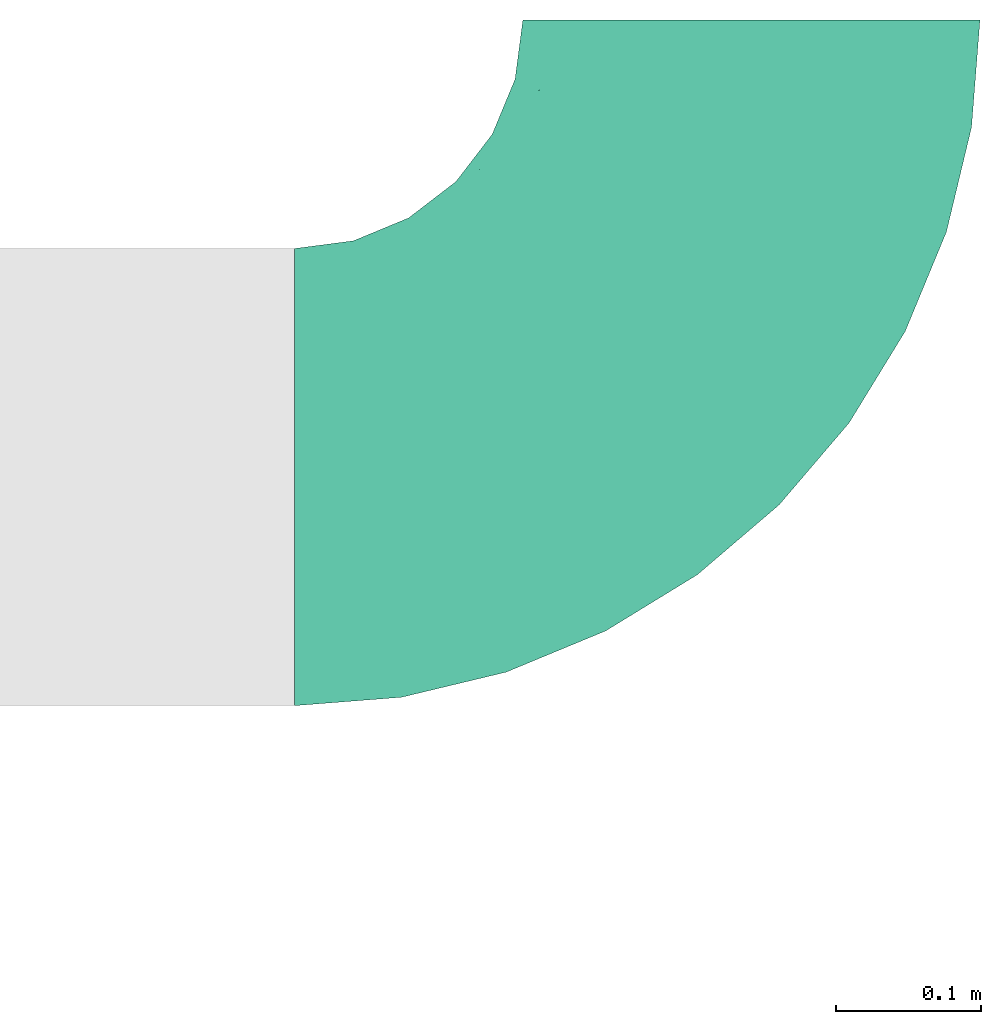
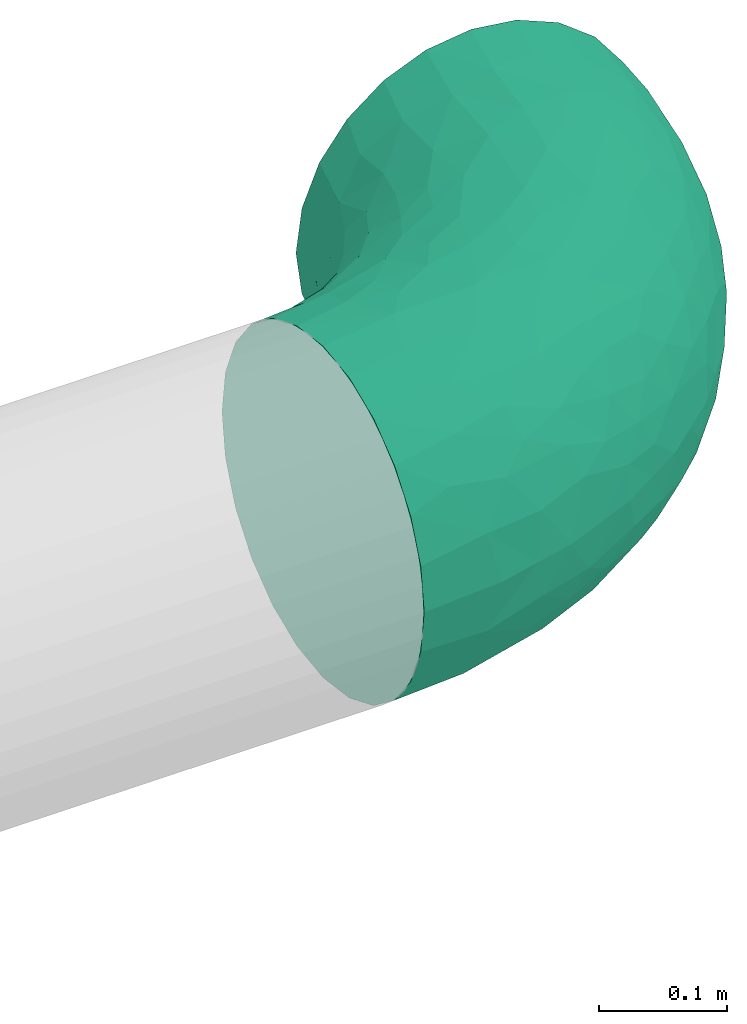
# One storey, part 11 of 12: 1 flow fitting.
"""IFC2X3 building model written with IfcOpenShell, lengths in millimetres."""

from ifc_helpers import new_model, entity, si_unit, converted_unit, derived_unit, direction, frame, origin_with_axes, place, context, subcontext, project, spatial, open_shell, surface_model, source, transform, mapped, type_object, element, save


model = new_model("IFC2X3")

# Units and contexts
model_context = context("Model", 3, precision=0.01, world=frame((0.0, 4.29681676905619e-09, 0.0)), true_north=direction((4.01073788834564e-13, 1.0)))
plan_context = context("Plan", 3, precision=0.01, world=frame((0.0, 4.29681676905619e-09, 0.0)), true_north=direction((4.01073788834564e-13, 1.0)))
body_context = subcontext(model_context, "Body", "Model", "MODEL_VIEW")
ifc_project = project(units=[converted_unit("PLANEANGLEUNIT", "DEGREE", entity("IfcPositiveLengthMeasure", 0.0174532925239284), si_unit("PLANEANGLEUNIT", "RADIAN"), dimensions=[0, 0, 0, 0, 0, 0, 0]), si_unit("AREAUNIT", "SQUARE_METRE"), si_unit("LENGTHUNIT", "METRE", prefix="MILLI"), si_unit("MASSUNIT", "GRAM", prefix="KILO"), si_unit("POWERUNIT", "WATT"), si_unit("PRESSUREUNIT", "PASCAL", prefix="KILO"), si_unit("FORCEUNIT", "NEWTON", prefix="KILO"), si_unit("ELECTRICVOLTAGEUNIT", "VOLT"), si_unit("ELECTRICCURRENTUNIT", "AMPERE"), si_unit("THERMODYNAMICTEMPERATUREUNIT", "DEGREE_CELSIUS"), si_unit("TIMEUNIT", "SECOND"), si_unit("VOLUMEUNIT", "CUBIC_METRE"), derived_unit("LINEARVELOCITYUNIT", [(si_unit("LENGTHUNIT", "METRE"), 1), (si_unit("TIMEUNIT", "SECOND"), -1)]), derived_unit("VOLUMETRICFLOWRATEUNIT", [(si_unit("VOLUMEUNIT", "CUBIC_METRE"), 1), (si_unit("TIMEUNIT", "SECOND"), -1)]), derived_unit("THERMALTRANSMITTANCEUNIT", [(si_unit("POWERUNIT", "WATT"), 1), (si_unit("THERMODYNAMICTEMPERATUREUNIT", "KELVIN"), -1), (si_unit("AREAUNIT", "SQUARE_METRE"), -1)]), derived_unit("SOUNDPRESSUREUNIT", [(si_unit("PRESSUREUNIT", "PASCAL"), 1)])], contexts=[model_context, plan_context])

# Site, building, storey
site_placement = place(None, frame((0.0, -4.29681676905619e-09, 0.0), z_axis=(0.0, 0.0, 1.0), x_axis=(1.0, 0.0, 0.0)))
site = spatial("IfcSite", under=ifc_project, at=site_placement, CompositionType="ELEMENT")
building_placement = place(site_placement, frame((0.0, 4.29681676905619e-09, 0.0), z_axis=(0.0, 0.0, 1.0), x_axis=(1.0, 0.0, 0.0)))
building = spatial("IfcBuilding", under=site, at=building_placement, Name="mc-building", CompositionType="ELEMENT")
storey_placement = place(building_placement, frame((0.0, 0.0, 204000.0), z_axis=(0.0, 0.0, 1.0), x_axis=(1.0, 0.0, 0.0)))
storey = spatial("IfcBuildingStorey", under=building, at=storey_placement, Name="Nivå D", CompositionType="ELEMENT", Elevation=204000.0)

# Flow fitting
duct_fitting_type = type_object("IfcDuctFittingType", Name="magicirc_elbow_full_radius_001", PredefinedType="BEND")
shared_shape = source(origin_with_axes(), body_context, "Body", "SurfaceModel", [
    surface_model("IfcShellBasedSurfaceModel", [(-315.0, 78.75, -136.39901), (-315.0, 40.764, -152.13332), (-315.0, 0.0, -157.5), (-315.0, 136.39901, -78.75), (-315.0, -40.764, -152.13332), (-315.0, 111.36932, -111.36932), (-315.0, -157.5, 0.0), (-315.0, -152.13332, 40.764), (-315.0, -111.36932, -111.36932), (-315.0, -152.13332, -40.764), (-315.0, -78.75, -136.39901), (-315.0, -136.39901, -78.75), (-315.0, 152.13332, -40.764), (-315.0, 152.13332, 40.764), (-315.0, 157.5, 0.0), (-315.0, 111.36932, 111.36932), (-315.0, 136.39901, 78.75), (-315.0, 78.75, 136.39901), (-315.0, 40.764, 152.13332), (-315.0, -111.36932, 111.36932), (-315.0, -78.75, 136.39901), (-315.0, -136.39901, 78.75), (-315.0, 0.0, 157.5), (-315.0, -40.764, 152.13332), (0.0, 315.0, -157.5), (-40.764, 315.0, -152.13332), (-78.75, 315.0, -136.39901), (-136.39901, 315.0, -78.75), (40.764, 315.0, -152.13332), (-111.36932, 315.0, -111.36932), (152.13332, 315.0, 40.764), (157.5, 315.0, 0.0), (78.75, 315.0, -136.39901), (152.13332, 315.0, -40.764), (111.36932, 315.0, -111.36932), (136.39901, 315.0, -78.75), (-152.13332, 315.0, -40.764), (-157.5, 315.0, 0.0), (-111.36932, 315.0, 111.36932), (-152.13332, 315.0, 40.764), (-136.39901, 315.0, 78.75), (-78.75, 315.0, 136.39901), (136.39901, 315.0, 78.75), (78.75, 315.0, 136.39901), (111.36932, 315.0, 111.36932), (0.0, 315.0, 157.5), (40.764, 315.0, 152.13332), (-40.764, 315.0, 152.13332), (-275.78673, -154.41385, 0.0), (-241.08472, -151.68274, 0.0), (-252.44974, -146.30358, 46.35165), (-187.41523, 212.23477, 44.18498), (-179.01149, 203.81739, 73.41005), (-160.11821, 234.12054, 71.62405), (-259.10789, -29.29167, 153.83069), (-244.91752, 10.986, 157.47118), (-224.67128, -127.46551, 78.41541), (-275.62484, -128.51884, 88.53098), (-239.58521, -68.78712, 137.8804), (-254.44946, -102.17277, 115.99392), (-204.97493, -89.72227, 117.91769), (-198.20454, -136.55993, 43.33884), (-148.94098, -119.38248, 47.89313), (-158.86886, -110.344, 75.73779), (39.78686, 15.52969, 50.216), (50.02524, 48.95167, 78.24133), (16.56876, 9.92294, 80.17525), (-156.73954, -92.78717, 99.09316), (-102.51279, -78.92253, 85.02595), (-126.30713, -72.38133, 106.65328), (-238.05749, 163.98734, 60.26168), (-237.20027, 147.2055, 88.84905), (-203.90523, 171.05831, 84.0913), (-99.39676, -101.96273, 31.06146), (-68.88048, -86.63056, 0.0), (-64.76022, -82.94549, 27.4714), (-194.76506, -28.32949, 149.7576), (24.59365, -9.6905, 28.83462), (43.18424, 9.08176, 0.0), (-28.15076, 147.0542, 156.53616), (-57.62232, 187.52251, 155.03024), (-72.61201, 106.84341, 157.43567), (-100.48949, -106.00058, 0.0), (-134.73948, -120.1874, 0.0), (-260.04347, 89.83524, 133.7152), (-237.26991, 125.02171, 112.97999), (-280.21215, 121.62894, 103.72153), (68.21928, 256.1901, 139.71452), (77.7719, 189.04071, 123.71299), (102.31809, 243.42041, 114.24978), (67.84442, 49.60938, 45.33346), (67.26053, 37.27147, 0.0), (90.55316, 77.99056, 29.40563), (-274.83669, 157.26153, 40.40661), (-274.67132, 145.30132, 71.02739), (-245.58363, 170.09727, 31.44943), (-158.01119, 282.57516, 29.57871), (-146.25125, 266.67126, 73.17914), (-201.21156, 99.95025, 140.23251), (-168.00076, 243.85557, 42.38557), (-236.25001, 178.601, 0.0), (-214.36106, 188.34463, 36.42869), (-203.63068, 203.63068, 0.0), (-162.86668, 274.236, 0.0), (-27.4795, -1.48331, 110.13927), (-51.96296, -33.03019, 100.52286), (-24.99652, -31.32094, 78.21218), (112.08788, 138.61937, 56.34637), (125.1619, 203.64453, 74.00759), (104.09929, 190.16434, 99.24634), (-263.88667, 52.46181, 150.1563), (6.28024, -18.02273, 54.59081), (-32.47692, -55.63747, 44.65165), (-205.03709, -143.02847, 0.0), (-151.50955, 215.6642, 97.49478), (-169.72394, 180.80582, 105.18325), (-137.80003, 192.65821, 121.95203), (-131.16131, 105.91152, 153.19188), (-137.52005, 135.51481, 144.53218), (-172.83727, 124.27225, 137.32768), (128.84491, 263.57392, 86.20478), (114.57644, 123.92915, 27.08781), (106.00058, 100.48949, 0.0), (131.75884, 176.48085, 38.42713), (143.02847, 205.03709, 0.0), (146.29642, 252.33829, 46.32598), (28.40156, 269.10441, 154.32704), (154.41385, 275.78673, 0.0), (-22.22564, 41.69116, 132.2609), (16.69324, 39.94323, 106.64404), (16.31975, 90.96952, 132.6244), (-52.03205, 254.37949, 150.89421), (153.88948, 315.0, 27.4246), (53.20704, 125.91085, 122.5592), (88.92651, 138.61761, 94.82216), (-274.236, 162.86668, 0.0), (-178.601, 236.25001, 0.0), (-168.81595, 14.50737, 156.32976), (-134.58592, -17.78306, 144.11351), (-96.06327, 24.61756, 149.79173), (-95.47965, 208.90923, 140.49399), (-78.67054, 72.23496, 155.69115), (-107.10628, 82.90122, 157.46314), (-89.91469, 266.26589, 132.78659), (-121.60296, 277.73788, 104.26598), (-11.78088, 260.70674, 157.34621), (-227.60537, 69.76326, 147.71238), (-195.7657, -66.84676, 132.57527), (-17.98791, 203.53807, 157.4841), (-60.53883, -60.45246, 74.88575), (-91.07399, -51.75682, 107.92189), (-197.57809, -110.08585, 94.49261), (-125.81015, 232.97235, 113.88738), (64.56465, 93.01368, 96.19249), (16.83328, 142.0015, 145.94195), (-22.72801, 90.93072, 148.21445), (-99.35511, 153.79, 150.7066), (57.69895, 213.45149, 140.44432), (29.76385, 212.9342, 151.06665), (41.25613, 174.00975, 141.99688), (81.24399, 84.86245, 65.51403), (-80.6457, -84.21175, 54.10058), (-119.42936, -101.75196, 60.63924), (-223.54613, 37.74243, 155.80439), (-168.22432, 88.17595, 150.9854), (-187.52253, 57.62232, 155.03024), (-196.7276, 148.24729, 112.17066), (-145.12836, 64.74974, 156.99994), (-62.1104, 49.45871, 148.77454), (-78.29466, 3.48913, 137.81789), (120.1874, 134.73948, 0.0), (134.3742, 168.98947, 0.0), (-124.07067, 168.52736, 138.84177), (0.02902, 171.95264, 154.42202), (-155.24181, 155.24181, 129.8968), (-73.90672, -22.7783, 121.68574), (-153.67663, -57.07317, 128.87412), (-113.78636, -39.32142, 127.49832), (-115.01886, 47.08507, 156.31037), (86.63056, 68.88048, 0.0), (-9.08176, -43.18424, 0.0), (19.10795, -19.10795, 0.0), (-168.98947, -134.3742, 0.0), (-37.27147, -67.26053, 0.0), (-315.0, -153.88948, 27.4246), (151.68274, 241.08472, 0.0), (-255.73532, 122.56558, -109.04479), (-214.29406, 93.80227, -140.10177), (-163.84149, 105.49727, -146.95596), (-183.82971, 59.98852, -154.94923), (-192.31906, 130.25635, -126.94074), (-214.67055, 186.05827, -42.62213), (-186.74496, 194.75879, -73.69482), (-239.00567, 164.73426, -57.54591), (84.53784, 80.13877, -52.6065), (-261.00954, 11.80363, -157.34285), (-250.44216, -29.83398, -153.37151), (-268.19836, 89.9699, -132.49512), (18.83806, 119.2151, -140.07242), (49.91254, 115.17721, -120.81771), (12.06978, 71.6341, -127.34592), (-248.07962, 169.80005, -27.2725), (-275.80747, 156.39383, -42.62213), (-196.40633, -137.77993, -37.15996), (-145.81166, -120.76195, -39.54807), (29.83399, 250.44214, -153.37151), (-188.19275, 214.15275, -37.45863), (-263.66616, 144.09279, -78.48806), (-189.95567, 165.06391, -102.28747), (43.89547, 65.88084, -99.75423), (78.16417, 108.21393, -90.03536), (-249.49402, 51.93128, -151.25871), (-315.0, -153.88948, -27.4246), (-247.57479, -102.2991, -114.91111), (-172.13573, -94.4716, -103.54526), (-203.64451, -125.1619, -74.00758), (-15.43872, -39.86246, -49.86848), (-49.56463, -70.60072, -36.85181), (-48.59952, -58.5205, -64.27403), (-252.33829, -146.29642, -46.32598), (-150.4225, 203.44707, -106.34238), (-263.57392, -128.84491, -86.20478), (-270.63117, -67.13499, -141.2369), (-215.39001, -68.32685, -135.04042), (102.2991, 247.57479, -114.91111), (-84.30908, -81.65653, -64.10818), (-91.06615, -97.14589, -32.77134), (94.4716, 172.13573, -103.54526), (68.32685, 215.39, -135.04042), (-163.2898, 237.20307, -62.64493), (-225.79476, 144.1207, -99.31867), (-157.79862, 273.70924, -39.50029), (-170.19986, 243.41794, -35.38905), (128.35851, 166.25059, -38.79853), (111.33052, 119.84284, -33.59532), (107.99483, 139.73378, -66.29524), (-159.64305, 170.07843, -119.54587), (-180.81821, -30.01596, -147.51371), (-145.25442, 275.15448, -70.89775), (-89.88491, 264.92544, -132.9879), (-44.17449, 280.59439, -151.79735), (9.31111, -25.05617, -28.4426), (53.009, 25.90805, -37.46377), (-11.80362, 261.00954, -157.34285), (67.13499, 270.63117, -141.2369), (-92.6263, 92.62629, -157.49916), (-118.96141, 121.25661, -152.49801), (-64.39537, 156.51032, -156.4116), (-60.182, 62.8574, -151.37938), (-107.20835, 12.13665, -148.56572), (-115.08393, 49.61455, -156.55155), (128.84491, 263.57392, -86.20478), (142.02096, 205.05236, -27.6146), (29.81946, 180.40381, -147.52592), (-13.4149, 195.22557, -157.2133), (146.29642, 252.33829, -46.32598), (-37.40914, -4.7821, -114.20577), (-6.41858, -12.60422, -81.0379), (-50.98723, -38.43118, -94.2951), (-120.93204, -103.51151, -58.28641), (-96.41026, 201.21637, -141.79045), (-123.09172, 250.65074, -110.13461), (-121.89335, 288.06679, -101.98259), (-63.35086, 202.24527, -152.53228), (-222.08454, -6.89853, -156.21984), (125.1619, 203.64451, -74.00758), (-51.91054, 246.85668, -151.45138), (-161.36987, -115.89647, -67.15691), (61.05333, 59.83208, -73.20753), (-114.28437, -21.13487, -137.6727), (-72.08976, 0.21966, -134.09767), (2.17272, 150.10188, -151.66391), (-117.40709, -78.70988, -95.14777), (15.79609, -8.49924, -54.72897), (67.75002, 163.86592, -124.46846), (-163.86592, -67.75002, -124.46846), (-128.02491, 185.93738, -130.75264), (-108.32235, 160.67293, -146.80015), (-59.757, 315.0, -144.26616), (-225.72616, 27.09586, -156.91411), (-54.59519, 105.68211, -156.33724), (-32.5663, 145.08674, -156.82141), (-145.37889, -8.42453, -149.28396), (-136.98265, 81.1657, -156.07826), (-156.31197, 39.80053, -157.47731), (-31.52679, 31.52678, -132.01846), (-143.53867, 148.20903, -138.06198), (-187.31767, 14.48755, -157.07868), (-19.17494, 108.97533, -150.78529), (2.87334, 23.19904, -105.99183), (32.99767, 23.1947, -73.77925), (-74.47057, -30.27504, -116.67674), (-115.17722, -49.91255, -120.81771), (153.88948, 315.0, -27.4246)], [open_shell([[[0, 1, 2]], [[3, 0, 2]], [[4, 3, 2]], [[5, 0, 3]], [[3, 6, 7]], [[8, 9, 10]], [[4, 10, 6]], [[11, 9, 8]], [[6, 10, 9]], [[6, 3, 4]], [[7, 12, 3]], [[13, 14, 15]], [[16, 13, 15]], [[17, 15, 7]], [[7, 15, 14]], [[17, 7, 18]], [[19, 20, 21]], [[7, 21, 22]], [[23, 22, 20]], [[21, 20, 22]], [[22, 18, 7]], [[12, 7, 14]], [[24, 25, 26]], [[24, 26, 27]], [[24, 27, 28]], [[27, 26, 29]], [[30, 31, 27]], [[32, 33, 34]], [[31, 32, 28]], [[34, 33, 35]], [[33, 32, 31]], [[28, 27, 31]], [[27, 36, 37]], [[38, 39, 40]], [[30, 38, 41]], [[42, 43, 44]], [[45, 42, 30]], [[43, 45, 46]], [[45, 43, 42]], [[30, 47, 45]], [[48, 49, 50]], [[51, 52, 53]], [[22, 54, 55]], [[56, 57, 50]], [[58, 59, 60]], [[23, 20, 58]], [[61, 62, 63]], [[64, 65, 66]], [[67, 68, 69]], [[70, 71, 72]], [[20, 59, 58]], [[73, 74, 75]], [[76, 54, 58]], [[64, 77, 78]], [[79, 80, 81]], [[50, 61, 56]], [[82, 73, 83]], [[84, 85, 86]], [[87, 88, 89]], [[22, 55, 18]], [[90, 91, 92]], [[93, 94, 70]], [[70, 95, 93]], [[96, 97, 39]], [[85, 84, 98]], [[99, 51, 53]], [[71, 70, 94]], [[100, 101, 102]], [[96, 103, 99]], [[14, 13, 93]], [[94, 93, 13]], [[64, 90, 65]], [[104, 105, 106]], [[107, 108, 109]], [[17, 110, 84]], [[111, 106, 112]], [[113, 50, 49]], [[20, 19, 59]], [[114, 115, 116]], [[117, 118, 119]], [[89, 43, 87]], [[19, 21, 57]], [[120, 89, 108]], [[121, 92, 122]], [[123, 124, 125]], [[45, 126, 46]], [[125, 127, 30]], [[16, 15, 86]], [[128, 129, 130]], [[120, 42, 44]], [[42, 125, 30]], [[123, 108, 107]], [[47, 41, 131]], [[127, 31, 132]], [[133, 134, 88]], [[93, 95, 135]], [[21, 7, 50]], [[99, 103, 136]], [[137, 138, 139]], [[102, 101, 51]], [[103, 96, 37]], [[140, 80, 131]], [[72, 101, 70]], [[51, 136, 102]], [[141, 81, 142]], [[131, 143, 140]], [[39, 97, 40]], [[38, 40, 144]], [[89, 44, 43]], [[145, 47, 131]], [[16, 94, 13]], [[41, 143, 131]], [[145, 45, 47]], [[15, 17, 84]], [[137, 55, 76]], [[23, 54, 22]], [[146, 84, 110]], [[58, 60, 147]], [[43, 46, 87]], [[88, 134, 109]], [[41, 38, 143]], [[80, 79, 148]], [[149, 150, 68]], [[67, 151, 63]], [[17, 18, 110]], [[84, 146, 98]], [[120, 125, 42]], [[125, 108, 123]], [[50, 7, 48]], [[50, 113, 61]], [[53, 52, 114]], [[144, 97, 152]], [[153, 129, 65]], [[111, 64, 66]], [[57, 59, 19]], [[60, 151, 67]], [[130, 133, 154]], [[129, 128, 104]], [[155, 154, 79]], [[156, 81, 80]], [[126, 87, 46]], [[157, 158, 159]], [[157, 88, 87]], [[160, 153, 65]], [[58, 54, 23]], [[55, 54, 76]], [[161, 162, 73]], [[162, 67, 63]], [[144, 143, 38]], [[143, 152, 140]], [[148, 131, 80]], [[126, 145, 158]], [[18, 55, 110]], [[163, 110, 55]], [[164, 98, 165]], [[98, 119, 166]], [[167, 117, 164]], [[140, 156, 80]], [[138, 137, 76]], [[168, 169, 128]], [[107, 134, 160]], [[89, 109, 108]], [[121, 123, 107]], [[170, 171, 123]], [[89, 120, 44]], [[125, 120, 108]], [[86, 94, 16]], [[94, 86, 71]], [[145, 126, 45]], [[126, 158, 157]], [[116, 140, 152]], [[118, 156, 172]], [[140, 116, 172]], [[81, 156, 117]], [[117, 167, 142]], [[81, 155, 79]], [[155, 130, 154]], [[148, 158, 145]], [[159, 88, 157]], [[173, 158, 148]], [[148, 79, 173]], [[131, 148, 145]], [[95, 70, 101]], [[14, 93, 135]], [[101, 100, 95]], [[135, 95, 100]], [[97, 144, 40]], [[143, 144, 152]], [[166, 71, 85]], [[71, 166, 72]], [[98, 166, 85]], [[166, 115, 72]], [[115, 166, 174]], [[101, 72, 52]], [[116, 115, 174]], [[52, 72, 115]], [[116, 174, 172]], [[114, 116, 152]], [[97, 114, 152]], [[52, 115, 114]], [[118, 172, 174]], [[140, 172, 156]], [[119, 118, 174]], [[156, 118, 117]], [[166, 119, 174]], [[119, 98, 164]], [[128, 130, 155]], [[153, 130, 129]], [[168, 128, 155]], [[104, 106, 66]], [[128, 169, 104]], [[162, 68, 67]], [[175, 150, 105]], [[176, 138, 76]], [[141, 155, 81]], [[139, 169, 168]], [[176, 69, 177]], [[147, 76, 58]], [[177, 150, 175]], [[138, 169, 139]], [[167, 137, 178]], [[137, 165, 163]], [[121, 122, 170]], [[126, 157, 87]], [[92, 121, 107]], [[123, 121, 170]], [[92, 107, 160]], [[90, 92, 160]], [[92, 91, 179]], [[65, 90, 160]], [[114, 97, 53]], [[160, 134, 153]], [[66, 65, 129]], [[134, 133, 153]], [[153, 133, 130]], [[104, 66, 129]], [[111, 66, 106]], [[149, 112, 106]], [[77, 64, 111]], [[161, 73, 75]], [[180, 181, 77]], [[77, 111, 112]], [[91, 90, 78]], [[77, 181, 78]], [[90, 64, 78]], [[97, 99, 53]], [[84, 86, 15]], [[86, 85, 71]], [[62, 61, 182]], [[151, 59, 56]], [[176, 60, 67]], [[59, 151, 60]], [[56, 61, 63]], [[56, 63, 151]], [[162, 63, 62]], [[62, 182, 83]], [[162, 161, 68]], [[149, 68, 161]], [[68, 150, 69]], [[62, 73, 162]], [[73, 82, 74]], [[183, 112, 75]], [[112, 149, 161]], [[149, 106, 105]], [[183, 75, 74]], [[112, 161, 75]], [[177, 69, 150]], [[176, 67, 69]], [[60, 176, 147]], [[76, 147, 176]], [[7, 184, 48]], [[184, 6, 48]], [[127, 125, 185]], [[127, 132, 30]], [[97, 96, 99]], [[37, 96, 39]], [[50, 57, 21]], [[59, 57, 56]], [[136, 51, 99]], [[101, 52, 51]], [[124, 123, 171]], [[124, 185, 125]], [[158, 173, 159]], [[154, 133, 159]], [[88, 159, 133]], [[83, 73, 62]], [[137, 163, 55]], [[146, 163, 165]], [[163, 146, 110]], [[98, 146, 165]], [[167, 164, 165]], [[119, 164, 117]], [[137, 167, 165]], [[167, 178, 142]], [[178, 139, 141]], [[117, 142, 81]], [[178, 141, 142]], [[155, 141, 168]], [[88, 109, 89]], [[107, 109, 134]], [[79, 154, 173]], [[173, 154, 159]], [[175, 104, 169]], [[149, 105, 150]], [[104, 175, 105]], [[177, 169, 138]], [[169, 177, 175]], [[138, 176, 177]], [[141, 139, 168]], [[139, 178, 137]], [[112, 180, 77]], [[179, 122, 92]], [[112, 183, 180]], [[113, 182, 61]], [[186, 5, 3]], [[187, 188, 189]], [[188, 187, 190]], [[191, 192, 193]], [[91, 194, 179]], [[2, 195, 196]], [[0, 5, 197]], [[198, 199, 200]], [[201, 202, 135]], [[182, 203, 204]], [[100, 201, 135]], [[28, 205, 24]], [[191, 102, 206]], [[12, 202, 207]], [[192, 208, 193]], [[209, 199, 210]], [[0, 211, 1]], [[197, 186, 187]], [[9, 48, 212]], [[213, 214, 215]], [[48, 6, 212]], [[216, 217, 218]], [[9, 11, 219]], [[192, 220, 208]], [[8, 221, 11]], [[191, 193, 201]], [[222, 196, 223]], [[10, 4, 222]], [[10, 222, 213]], [[113, 219, 203]], [[204, 82, 83]], [[32, 34, 224]], [[225, 217, 226]], [[8, 10, 213]], [[227, 228, 224]], [[229, 220, 192]], [[136, 206, 102]], [[186, 230, 190]], [[231, 229, 232]], [[233, 234, 235]], [[37, 36, 231]], [[208, 220, 236]], [[237, 223, 196]], [[238, 231, 36]], [[4, 2, 196]], [[239, 26, 240]], [[29, 26, 239]], [[232, 103, 231]], [[78, 241, 242]], [[211, 0, 197]], [[24, 243, 25]], [[238, 36, 27]], [[24, 205, 243]], [[28, 244, 205]], [[180, 216, 241]], [[245, 246, 247]], [[14, 135, 202]], [[228, 244, 224]], [[234, 179, 194]], [[234, 194, 235]], [[248, 249, 250]], [[35, 251, 34]], [[28, 32, 244]], [[233, 252, 171]], [[205, 253, 254]], [[127, 185, 255]], [[33, 127, 255]], [[238, 229, 231]], [[230, 186, 207]], [[256, 257, 258]], [[35, 33, 255]], [[226, 259, 225]], [[239, 260, 261]], [[262, 27, 29]], [[12, 207, 3]], [[263, 254, 247]], [[189, 211, 187]], [[264, 196, 195]], [[251, 224, 34]], [[227, 224, 265]], [[253, 205, 228]], [[243, 254, 266]], [[2, 1, 195]], [[196, 264, 237]], [[214, 213, 223]], [[221, 213, 215]], [[221, 219, 11]], [[267, 203, 215]], [[252, 185, 124]], [[251, 255, 265]], [[268, 210, 194]], [[227, 235, 210]], [[269, 249, 270]], [[198, 271, 253]], [[225, 272, 258]], [[273, 216, 257]], [[239, 266, 263]], [[262, 239, 261]], [[235, 227, 265]], [[274, 228, 227]], [[223, 275, 214]], [[214, 275, 272]], [[100, 102, 191]], [[202, 201, 193]], [[191, 201, 100]], [[191, 206, 192]], [[206, 229, 192]], [[229, 238, 220]], [[260, 276, 261]], [[276, 260, 277]], [[247, 246, 277]], [[190, 187, 186]], [[202, 193, 207]], [[14, 202, 12]], [[230, 193, 208]], [[3, 207, 186]], [[254, 243, 205]], [[26, 278, 240]], [[1, 211, 195]], [[279, 195, 211]], [[186, 197, 5]], [[211, 197, 187]], [[274, 253, 228]], [[199, 209, 200]], [[245, 248, 250]], [[280, 247, 281]], [[269, 282, 249]], [[237, 269, 275]], [[283, 250, 284]], [[285, 256, 270]], [[193, 230, 207]], [[230, 208, 190]], [[236, 190, 208]], [[188, 190, 286]], [[286, 246, 188]], [[284, 287, 189]], [[283, 188, 246]], [[189, 287, 279]], [[277, 246, 286]], [[283, 246, 245]], [[247, 277, 263]], [[254, 271, 281]], [[250, 283, 245]], [[189, 188, 283]], [[280, 248, 245]], [[249, 282, 284]], [[288, 285, 248]], [[248, 285, 270]], [[213, 221, 8]], [[219, 221, 215]], [[255, 251, 35]], [[224, 251, 265]], [[249, 248, 270]], [[285, 200, 289]], [[262, 238, 27]], [[220, 238, 261]], [[235, 265, 233]], [[210, 235, 194]], [[209, 268, 290]], [[210, 199, 274]], [[289, 209, 290]], [[209, 289, 200]], [[257, 289, 290]], [[256, 285, 289]], [[285, 288, 200]], [[198, 200, 288]], [[273, 257, 290]], [[218, 257, 216]], [[232, 229, 206]], [[37, 231, 103]], [[252, 265, 255]], [[233, 170, 234]], [[271, 198, 288]], [[274, 198, 253]], [[281, 271, 288]], [[254, 253, 271]], [[280, 281, 288]], [[254, 281, 247]], [[248, 280, 288]], [[247, 280, 245]], [[204, 267, 259]], [[74, 226, 217]], [[276, 277, 286]], [[277, 260, 263]], [[236, 276, 286]], [[261, 276, 220]], [[257, 256, 289]], [[122, 179, 234]], [[170, 233, 171]], [[170, 122, 234]], [[291, 256, 258]], [[291, 270, 256]], [[270, 291, 269]], [[275, 269, 292]], [[282, 269, 237]], [[237, 287, 282]], [[282, 287, 284]], [[272, 291, 258]], [[291, 292, 269]], [[265, 252, 233]], [[185, 252, 255]], [[224, 244, 32]], [[205, 244, 228]], [[196, 222, 4]], [[213, 222, 223]], [[242, 273, 290]], [[241, 216, 273]], [[242, 290, 268]], [[78, 181, 241]], [[242, 241, 273]], [[183, 217, 180]], [[241, 181, 180]], [[206, 136, 232]], [[124, 171, 252]], [[103, 232, 136]], [[113, 49, 219]], [[215, 203, 219]], [[48, 219, 49]], [[9, 219, 48]], [[293, 31, 127]], [[127, 33, 293]], [[239, 262, 29]], [[238, 262, 261]], [[242, 91, 78]], [[74, 82, 226]], [[180, 217, 216]], [[74, 217, 183]], [[204, 203, 267]], [[259, 267, 272]], [[215, 214, 267]], [[272, 267, 214]], [[225, 258, 218]], [[257, 218, 258]], [[194, 91, 242]], [[210, 274, 227]], [[274, 199, 198]], [[237, 275, 223]], [[272, 275, 292]], [[272, 292, 291]], [[259, 272, 225]], [[276, 236, 220]], [[190, 236, 286]], [[189, 279, 211]], [[264, 279, 287]], [[279, 264, 195]], [[237, 264, 287]], [[239, 263, 260]], [[254, 263, 266]], [[283, 284, 189]], [[284, 250, 249]], [[210, 268, 209]], [[242, 268, 194]], [[82, 204, 226]], [[83, 182, 204]], [[203, 182, 113]], [[38, 37, 39]], [[37, 38, 30]], [[47, 30, 41]], [[37, 30, 27]], [[278, 25, 240]], [[217, 225, 218]], [[259, 226, 204]], [[266, 239, 240]], [[25, 243, 240]], [[243, 266, 240]]])]),
])
flow_fitting_placement = place(storey_placement, frame((607701.87533, 404951.79391, 3490.0), z_axis=(0.0, 0.0, 1.0), x_axis=(1.0, 0.0, 0.0)))
element("IfcFlowFitting", 1, at=flow_fitting_placement, inside=storey, type_object=duct_fitting_type, Name="magicirc_elbow_full_radius_001", context=body_context, shape_type="MappedRepresentation", body=[
    mapped(shared_shape, transform((0.0, 0.0, 0.0), scale=1.0)),
])

save(model, "model.ifc")
